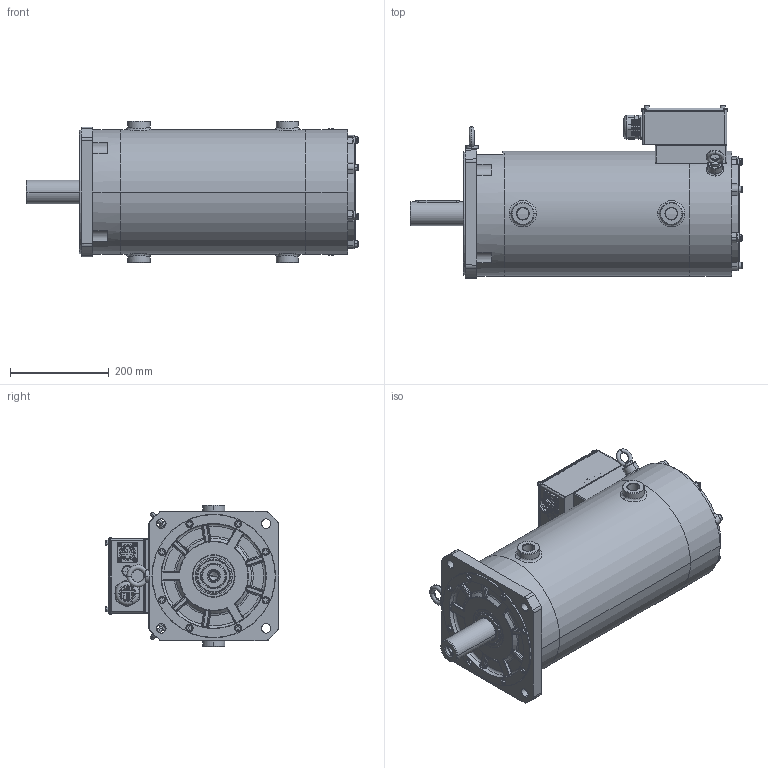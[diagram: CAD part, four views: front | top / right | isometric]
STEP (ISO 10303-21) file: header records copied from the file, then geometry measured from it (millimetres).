
FILE_DESCRIPTION((''),'2;1');
FILE_NAME('MOTOR-320____SW0001','2026-02-12T16:34:53',('01002423'),(''),'CREO PARAMETRIC BY PTC INC, 2019080','CREO PARAMETRIC BY PTC INC, 2019080','');
FILE_SCHEMA(('CONFIG_CONTROL_DESIGN'));
Length unit declared in the file: millimetre
Products named in the file (1): MOTOR-320____SW0001
Bounding box: 672 x 350.99 x 287 mm (x, y, z)
Surface area: 2256770 mm2 (no closed solid volume)
Topology: 0 solids, 105 shells, 1942 faces, 6387 edges, 4534 vertices
Faces by surface type: plane 711, cylinder 562, bspline 328, cone 167, torus 150, sphere 24
Entity records: 102982 total; most frequent: CARTESIAN_POINT 49017, DIRECTION 10877, ORIENTED_EDGE 10642, EDGE_CURVE 6355, VERTEX_POINT 4534, AXIS2_PLACEMENT_3D 3867, VECTOR 3143, LINE 3143
